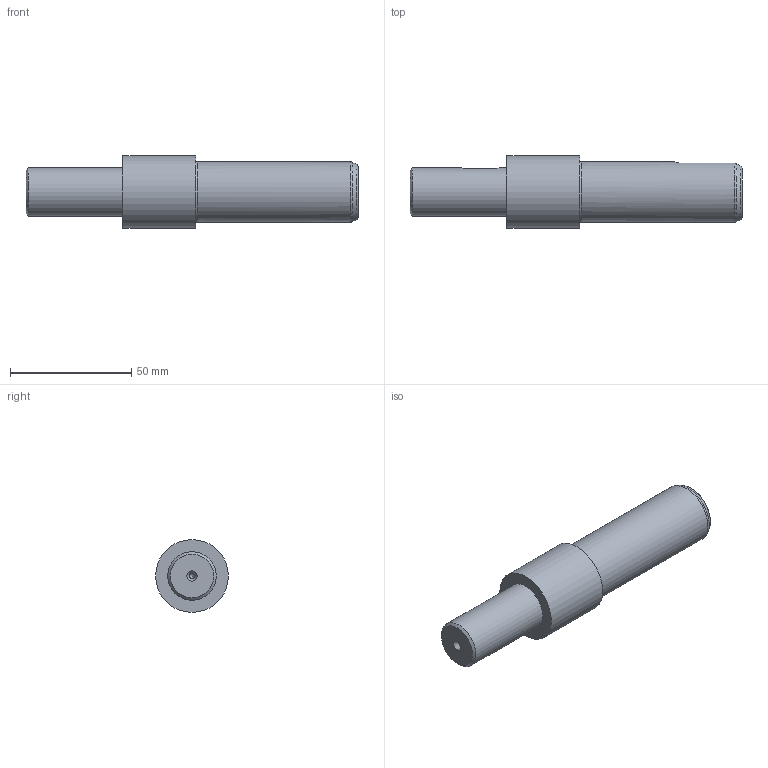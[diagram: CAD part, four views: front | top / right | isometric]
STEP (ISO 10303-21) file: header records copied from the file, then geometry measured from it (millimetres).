
FILE_DESCRIPTION(/* description */ (''),/* implementation_level */ '2;1');
FILE_NAME(/* name */ '',/* time_stamp */ '2025-11-19T16:40:23+09:00',/* author */ ('jhkim'),/* organization */ (''),/* preprocessor_version */ 'ST-DEVELOPER v20.1',/* originating_system */ 'Autodesk Inventor 2026',/* authorisation */ '');
FILE_SCHEMA (('AUTOMOTIVE_DESIGN { 1 0 10303 214 3 1 1 }'));
Length unit declared in the file: millimetre
Products named in the file (1): 출력 축
Bounding box: 137 x 30 x 30 mm (x, y, z)
Volume: 65069.2 mm3; surface area: 12395.4 mm2
Topology: 1 solids, 1 shells, 27 faces, 66 edges, 44 vertices
Faces by surface type: plane 10, cylinder 8, cone 6, torus 3
Full cylindrical faces by diameter (mm): 2 x1, 4.917 x1, 20 x1, 25 x1, 30 x1
Entity records: 894 total; most frequent: CARTESIAN_POINT 218, DIRECTION 133, ORIENTED_EDGE 128, EDGE_CURVE 64, AXIS2_PLACEMENT_3D 53, VERTEX_POINT 44, EDGE_LOOP 32, FACE_OUTER_BOUND 27
